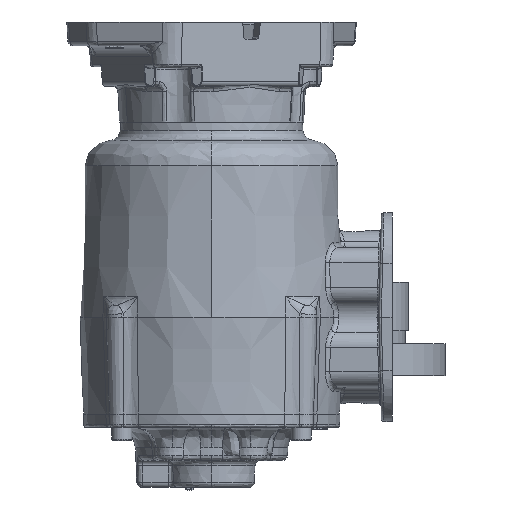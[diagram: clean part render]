
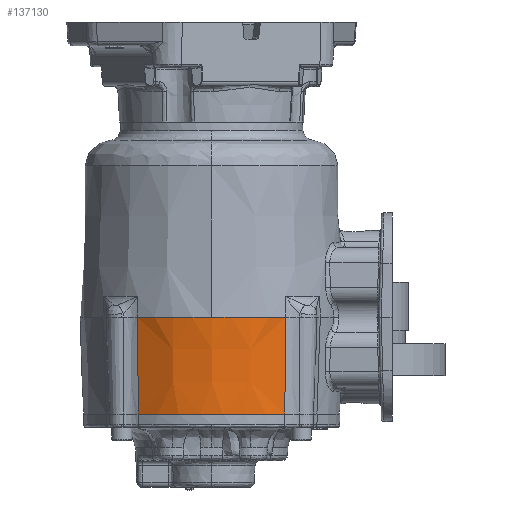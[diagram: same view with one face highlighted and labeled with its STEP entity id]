
A CAD part, left-side view. The second image highlights one B-rep face of the part: STEP entity #137130.
In plain terms, the highlighted conical face has half-angle 2 degrees and reference radius 78.232 mm.
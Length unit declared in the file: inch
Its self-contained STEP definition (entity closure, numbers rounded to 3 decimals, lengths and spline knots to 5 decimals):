
#18327 = CARTESIAN_POINT ( 'NONE',  ( -3.40707, 0.03727, -0.86956 ) ) ;
#18341 = CARTESIAN_POINT ( 'NONE',  ( -2.87096, 1.77365, -0.86956 ) ) ;
#44001 = VERTEX_POINT ( 'NONE', #18327 ) ;
#44004 = VERTEX_POINT ( 'NONE', #18341 ) ;
#48054 = CIRCLE ( 'NONE', #48060, 3.08 ) ;
#48058 = CIRCLE ( 'NONE', #48065, 3.00092 ) ;
#48060 = AXIS2_PLACEMENT_3D ( 'NONE', #157227, #157228, #157229 ) ;
#48065 = AXIS2_PLACEMENT_3D ( 'NONE', #157230, #157231, #157232 ) ;
#52454 = B_SPLINE_CURVE_WITH_KNOTS ( 'NONE', 3,
 ( #157334, #157335, #157346, #157347 ),
 .UNSPECIFIED., .F., .F.,
 ( 4, 4 ),
 ( 0., 1. ),
 .UNSPECIFIED. ) ;
#53127 = B_SPLINE_CURVE_WITH_KNOTS ( 'NONE', 3,
 ( #157296, #157297, #157312, #157313 ),
 .UNSPECIFIED., .F., .F.,
 ( 4, 4 ),
 ( 0., 1. ),
 .UNSPECIFIED. ) ;
#60780 = CIRCLE ( 'NONE', #60781, 3.08 ) ;
#60781 = AXIS2_PLACEMENT_3D ( 'NONE', #139246, #139248, #139249 ) ;
#60959 = ORIENTED_EDGE ( 'NONE', *, *, #141849, .F. ) ;
#60960 = ORIENTED_EDGE ( 'NONE', *, *, #139448, .T. ) ;
#60961 = ORIENTED_EDGE ( 'NONE', *, *, #139427, .F. ) ;
#60962 = ORIENTED_EDGE ( 'NONE', *, *, #139453, .T. ) ;
#60963 = ORIENTED_EDGE ( 'NONE', *, *, #139426, .F. ) ;
#64536 = VERTEX_POINT ( 'NONE', #134652 ) ;
#64540 = VERTEX_POINT ( 'NONE', #134655 ) ;
#64546 = VERTEX_POINT ( 'NONE', #134661 ) ;
#98671 = CONICAL_SURFACE ( 'NONE', #98672, 3.08, 0.035 ) ;
#98672 = AXIS2_PLACEMENT_3D ( 'NONE', #132186, #132182, #132141 ) ;
#132141 = DIRECTION ( 'NONE',  ( 1., 0., 0. ) ) ;
#132143 = FACE_OUTER_BOUND ( 'NONE', #162973, .T. ) ;
#132182 = DIRECTION ( 'NONE',  ( 0., 0., 1. ) ) ;
#132186 = CARTESIAN_POINT ( 'NONE',  ( -0.32707, 0.03727, -0.86956 ) ) ;
#134652 = CARTESIAN_POINT ( 'NONE',  ( -2.79144, -1.67515, -3.13406 ) ) ;
#134655 = CARTESIAN_POINT ( 'NONE',  ( -2.87096, -1.6991, -0.86956 ) ) ;
#134661 = CARTESIAN_POINT ( 'NONE',  ( -2.79144, 1.7497, -3.13406 ) ) ;
#137130 = ADVANCED_FACE ( 'NONE', ( #132143 ), #98671, .T. ) ;
#139246 = CARTESIAN_POINT ( 'NONE',  ( -0.32707, 0.03727, -0.86956 ) ) ;
#139248 = DIRECTION ( 'NONE',  ( 0., 0., 1. ) ) ;
#139249 = DIRECTION ( 'NONE',  ( 1., 0., 0. ) ) ;
#139426 = EDGE_CURVE ( 'NONE', #44001, #64540, #48054, .T. ) ;
#139427 = EDGE_CURVE ( 'NONE', #64536, #64546, #48058, .T. ) ;
#139448 = EDGE_CURVE ( 'NONE', #44004, #64546, #53127, .T. ) ;
#139453 = EDGE_CURVE ( 'NONE', #64536, #64540, #52454, .T. ) ;
#141849 = EDGE_CURVE ( 'NONE', #44004, #44001, #60780, .T. ) ;
#157227 = CARTESIAN_POINT ( 'NONE',  ( -0.32707, 0.03727, -0.86956 ) ) ;
#157228 = DIRECTION ( 'NONE',  ( 0., 0., 1. ) ) ;
#157229 = DIRECTION ( 'NONE',  ( 1., 0., 0. ) ) ;
#157230 = CARTESIAN_POINT ( 'NONE',  ( -0.32707, 0.03727, -3.13406 ) ) ;
#157231 = DIRECTION ( 'NONE',  ( 0., 0., -1. ) ) ;
#157232 = DIRECTION ( 'NONE',  ( 1., 0., 0. ) ) ;
#157296 = CARTESIAN_POINT ( 'NONE',  ( -2.87096, 1.77365, -0.86956 ) ) ;
#157297 = CARTESIAN_POINT ( 'NONE',  ( -2.84382, 1.76533, -1.64577 ) ) ;
#157312 = CARTESIAN_POINT ( 'NONE',  ( -2.81732, 1.75734, -2.4006 ) ) ;
#157313 = CARTESIAN_POINT ( 'NONE',  ( -2.79144, 1.7497, -3.13406 ) ) ;
#157334 = CARTESIAN_POINT ( 'NONE',  ( -2.79144, -1.67515, -3.13406 ) ) ;
#157335 = CARTESIAN_POINT ( 'NONE',  ( -2.81732, -1.6828, -2.4006 ) ) ;
#157346 = CARTESIAN_POINT ( 'NONE',  ( -2.84382, -1.69078, -1.64577 ) ) ;
#157347 = CARTESIAN_POINT ( 'NONE',  ( -2.87096, -1.6991, -0.86956 ) ) ;
#162973 = EDGE_LOOP ( 'NONE', ( #60959, #60960, #60961, #60962, #60963 ) ) ;
